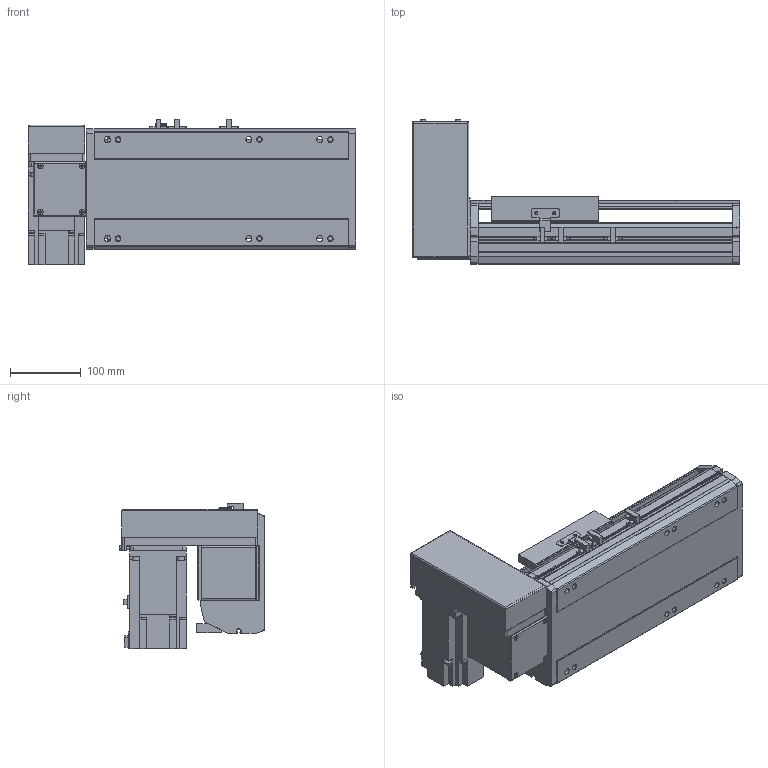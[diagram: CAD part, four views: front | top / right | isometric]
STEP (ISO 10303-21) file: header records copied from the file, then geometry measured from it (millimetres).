
FILE_DESCRIPTION( ( 'STEP AP214' ), '1' );
FILE_NAME( 'x:/temp/worker_5/temp/exporttempdir_3988_104_N79Wu/format_0/PBS170-P40-S100-RU-T75-C1-N(0).stp', '2022-06-08T05:55:02', ( 'License CC BY-ND 4.0' ), ( 'CADENAS' ), ' ', 'PARTsolutions', ' ' );
FILE_SCHEMA( ( 'AUTOMOTIVE_DESIGN { 1 0 10303 214 1 1 1 1 }' ) );
Length unit declared in the file: millimetre
Products named in the file (7): PBS170-P40-S100-RU-T75-C1-N(0); _PBS170-S100()_body; _PBS170T-RU_motors; _T75-p1; _PBS170_sliser; _PBS170_plant; _PBS170_sensor
Assembly tree (8 placements, depth 2):
  PBS170-P40-S100-RU-T75-C1-N(0)
    _PBS170-S100()_body
    _PBS170T-RU_motors
    _T75-p1
    _PBS170_sliser
    _PBS170_plant
    _PBS170_sensor  x3
Bounding box: 463 x 206 x 205.3 mm (x, y, z)
Volume: 4576573.9 mm3; surface area: 666894.8 mm2
Topology: 8 solids, 8 shells, 1002 faces, 2675 edges, 1744 vertices
Faces by surface type: plane 657, cylinder 299, cone 36, sphere 8, torus 2
Full cylindrical faces by diameter (mm): 3.242 x4, 4 x2, 4.4 x4, 4.5 x6, 4.917 x4, 6 x9, 6.647 x14, 7 x2, 7.5 x4, 8 x8, 8.5 x6, 10 x4, 10.5 x6, 11 x2, 30 x2, 40 x1, 70 x1
Entity records: 36530 total; most frequent: CARTESIAN_POINT 5381, DIRECTION 4950, ORIENTED_EDGE 4728, EDGE_CURVE 2364, AXIS2_PLACEMENT_3D 1687, VERTEX_POINT 1610, LINE 1576, VECTOR 1576
